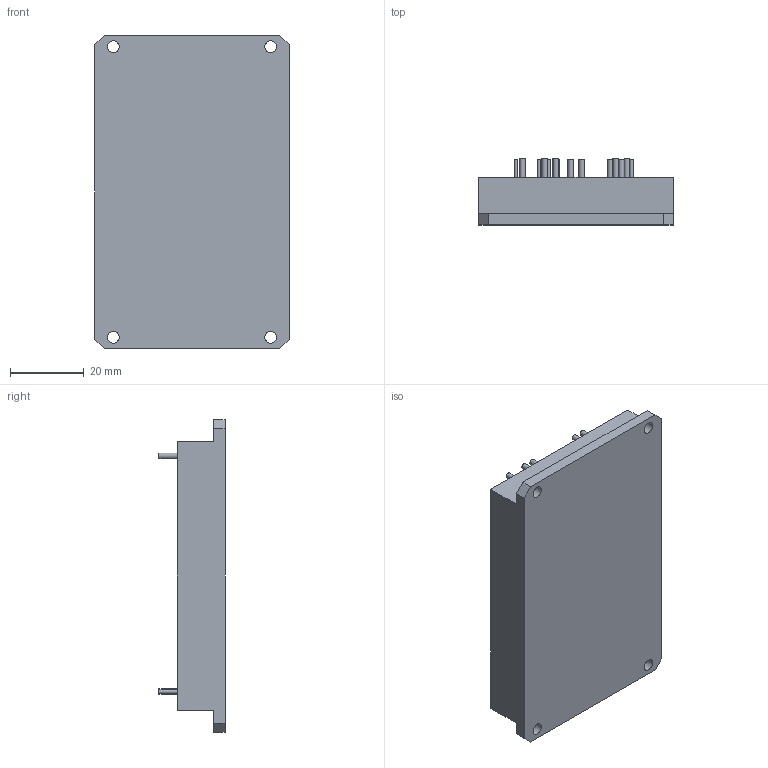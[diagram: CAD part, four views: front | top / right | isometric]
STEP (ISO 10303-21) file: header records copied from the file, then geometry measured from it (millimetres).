
FILE_DESCRIPTION(/* description */ (''),/* implementation_level */ '2;1');
FILE_NAME(/* name */ '',/* time_stamp */ '2020-02-28T15:09:19+01:00',/* author */ (''),/* organization */ (''),/* preprocessor_version */ 'ST-DEVELOPER v16.5',/* originating_system */ '',/* authorisation */ '');
FILE_SCHEMA (('AUTOMOTIVE_DESIGN { 1 0 10303 214 3 1 1 }'));
Length unit declared in the file: millimetre
Products named in the file (1): TESND250-F5_pins
Bounding box: 52.5 x 17.85 x 84.5 mm (x, y, z)
Volume: 47228.5 mm3; surface area: 12758 mm2
Topology: 1 solids, 1 shells, 55 faces, 118 edges, 80 vertices
Faces by surface type: plane 33, cylinder 22
Full cylindrical faces by diameter (mm): 1 x5, 1.5 x9, 3.2 x4
Entity records: 1428 total; most frequent: DIRECTION 252, CARTESIAN_POINT 228, ORIENTED_EDGE 192, AXIS2_PLACEMENT_3D 100, EDGE_LOOP 96, EDGE_CURVE 96, VERTEX_POINT 76, FACE_OUTER_BOUND 55
